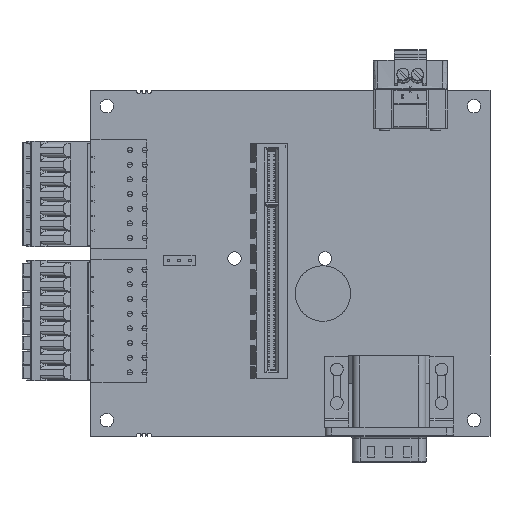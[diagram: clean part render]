
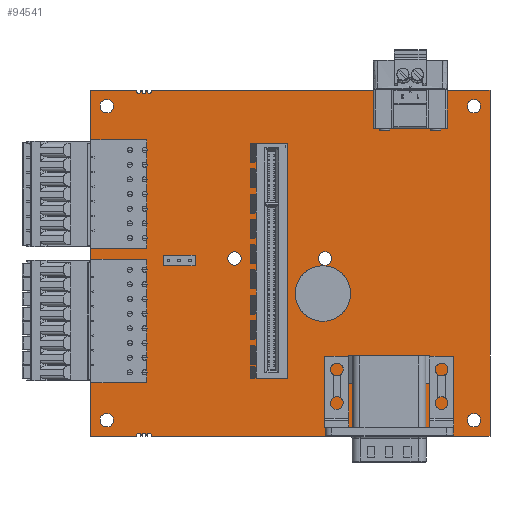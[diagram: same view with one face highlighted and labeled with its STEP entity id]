
A CAD part, front view. The second image highlights one B-rep face of the part: STEP entity #94541.
In plain terms, the highlighted planar face has unit normal (0, -1, 0).
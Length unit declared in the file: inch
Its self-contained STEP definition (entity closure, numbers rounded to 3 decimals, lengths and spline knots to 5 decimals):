
#94337=CARTESIAN_POINT('',(-1.73326,0.,-1.67));
#94338=VERTEX_POINT('',#94337);
#94345=CARTESIAN_POINT('',(-1.76674,0.,-1.67));
#94346=VERTEX_POINT('',#94345);
#94347=CARTESIAN_POINT('',(-1.75,0.,-1.66));
#94348=DIRECTION('',(0.,1.,0.));
#94349=DIRECTION('',(1.,0.,0.));
#94350=AXIS2_PLACEMENT_3D('',#94347,#94348,#94349);
#94351=CIRCLE('',#94350,0.0195);
#94352=EDGE_CURVE('',#94346,#94338,#94351,.T.);
#94368=ORIENTED_EDGE('',*,*,#94352,.T.);
#94369=CARTESIAN_POINT('',(-1.71674,0.,-1.67));
#94370=VERTEX_POINT('',#94369);
#94371=CARTESIAN_POINT('',(6.57942,0.,-1.67));
#94372=DIRECTION('',(1.,0.,0.));
#94373=VECTOR('',#94372,1.);
#94374=LINE('',#94371,#94373);
#94375=EDGE_CURVE('',#94338,#94370,#94374,.T.);
#94376=ORIENTED_EDGE('',*,*,#94375,.T.);
#94377=CARTESIAN_POINT('',(-1.68326,0.,-1.67));
#94378=VERTEX_POINT('',#94377);
#94379=CARTESIAN_POINT('',(-1.7,0.,-1.66));
#94380=DIRECTION('',(0.,1.,0.));
#94381=DIRECTION('',(1.,0.,0.));
#94382=AXIS2_PLACEMENT_3D('',#94379,#94380,#94381);
#94383=CIRCLE('',#94382,0.0195);
#94384=EDGE_CURVE('',#94370,#94378,#94383,.T.);
#94385=ORIENTED_EDGE('',*,*,#94384,.T.);
#94386=CARTESIAN_POINT('',(-1.66674,0.,-1.67));
#94387=VERTEX_POINT('',#94386);
#94388=EDGE_CURVE('',#94378,#94387,#94374,.T.);
#94389=ORIENTED_EDGE('',*,*,#94388,.T.);
#94390=CARTESIAN_POINT('',(-1.63326,0.,-1.67));
#94391=VERTEX_POINT('',#94390);
#94392=CARTESIAN_POINT('',(-1.65,0.,-1.66));
#94393=DIRECTION('',(0.,1.,0.));
#94394=DIRECTION('',(1.,0.,0.));
#94395=AXIS2_PLACEMENT_3D('',#94392,#94393,#94394);
#94396=CIRCLE('',#94395,0.0195);
#94397=EDGE_CURVE('',#94387,#94391,#94396,.T.);
#94398=ORIENTED_EDGE('',*,*,#94397,.T.);
#94399=CARTESIAN_POINT('',(1.55,0.,-1.67));
#94400=VERTEX_POINT('',#94399);
#94401=EDGE_CURVE('',#94391,#94400,#94374,.T.);
#94402=ORIENTED_EDGE('',*,*,#94401,.T.);
#94403=CARTESIAN_POINT('',(1.55,0.,1.58));
#94404=VERTEX_POINT('',#94403);
#94405=CARTESIAN_POINT('',(1.55,0.,-2.58));
#94406=DIRECTION('',(0.,0.,1.));
#94407=VECTOR('',#94406,1.);
#94408=LINE('',#94405,#94407);
#94409=EDGE_CURVE('',#94400,#94404,#94408,.T.);
#94410=ORIENTED_EDGE('',*,*,#94409,.T.);
#94411=CARTESIAN_POINT('',(-1.63326,0.,1.58));
#94412=VERTEX_POINT('',#94411);
#94413=CARTESIAN_POINT('',(-2.2,0.,1.58));
#94414=DIRECTION('',(1.,0.,0.));
#94415=VECTOR('',#94414,1.);
#94416=LINE('',#94413,#94415);
#94417=EDGE_CURVE('',#94412,#94404,#94416,.T.);
#94418=ORIENTED_EDGE('',*,*,#94417,.F.);
#94419=CARTESIAN_POINT('',(-1.66674,0.,1.58));
#94420=VERTEX_POINT('',#94419);
#94421=CARTESIAN_POINT('',(-1.65,0.,1.57));
#94422=DIRECTION('',(0.,1.,0.));
#94423=DIRECTION('',(1.,0.,0.));
#94424=AXIS2_PLACEMENT_3D('',#94421,#94422,#94423);
#94425=CIRCLE('',#94424,0.0195);
#94426=EDGE_CURVE('',#94412,#94420,#94425,.T.);
#94427=ORIENTED_EDGE('',*,*,#94426,.T.);
#94428=CARTESIAN_POINT('',(-1.68326,0.,1.58));
#94429=VERTEX_POINT('',#94428);
#94430=EDGE_CURVE('',#94429,#94420,#94416,.T.);
#94431=ORIENTED_EDGE('',*,*,#94430,.F.);
#94432=CARTESIAN_POINT('',(-1.71674,0.,1.58));
#94433=VERTEX_POINT('',#94432);
#94434=CARTESIAN_POINT('',(-1.7,0.,1.57));
#94435=DIRECTION('',(0.,1.,0.));
#94436=DIRECTION('',(1.,0.,0.));
#94437=AXIS2_PLACEMENT_3D('',#94434,#94435,#94436);
#94438=CIRCLE('',#94437,0.0195);
#94439=EDGE_CURVE('',#94429,#94433,#94438,.T.);
#94440=ORIENTED_EDGE('',*,*,#94439,.T.);
#94441=CARTESIAN_POINT('',(-1.73326,0.,1.58));
#94442=VERTEX_POINT('',#94441);
#94443=EDGE_CURVE('',#94442,#94433,#94416,.T.);
#94444=ORIENTED_EDGE('',*,*,#94443,.F.);
#94445=CARTESIAN_POINT('',(-1.76674,0.,1.58));
#94446=VERTEX_POINT('',#94445);
#94447=CARTESIAN_POINT('',(-1.75,0.,1.57));
#94448=DIRECTION('',(0.,1.,0.));
#94449=DIRECTION('',(1.,0.,0.));
#94450=AXIS2_PLACEMENT_3D('',#94447,#94448,#94449);
#94451=CIRCLE('',#94450,0.0195);
#94452=EDGE_CURVE('',#94442,#94446,#94451,.T.);
#94453=ORIENTED_EDGE('',*,*,#94452,.T.);
#94454=CARTESIAN_POINT('',(-2.2,0.,1.58));
#94455=VERTEX_POINT('',#94454);
#94456=EDGE_CURVE('',#94455,#94446,#94416,.T.);
#94457=ORIENTED_EDGE('',*,*,#94456,.F.);
#94458=CARTESIAN_POINT('',(-2.2,0.,-1.67));
#94459=VERTEX_POINT('',#94458);
#94460=CARTESIAN_POINT('',(-2.2,0.,-2.275));
#94461=DIRECTION('',(0.,0.,1.));
#94462=VECTOR('',#94461,1.);
#94463=LINE('',#94460,#94462);
#94464=EDGE_CURVE('',#94459,#94455,#94463,.T.);
#94465=ORIENTED_EDGE('',*,*,#94464,.F.);
#94466=EDGE_CURVE('',#94459,#94346,#94374,.T.);
#94467=ORIENTED_EDGE('',*,*,#94466,.T.);
#94468=EDGE_LOOP('',(#94368,#94376,#94385,#94389,#94398,#94402,#94410,#94418,#94427,#94431,#94440,#94444,#94453,#94457,#94465,#94467));
#94469=FACE_OUTER_BOUND('',#94468,.T.);
#94470=CARTESIAN_POINT('',(-2.113,0.,1.43));
#94471=VERTEX_POINT('',#94470);
#94472=CARTESIAN_POINT('',(-2.05,0.,1.43));
#94473=DIRECTION('',(0.,1.,0.));
#94474=DIRECTION('',(1.,0.,0.));
#94475=AXIS2_PLACEMENT_3D('',#94472,#94473,#94474);
#94476=CIRCLE('',#94475,0.063);
#94477=EDGE_CURVE('',#94471,#94471,#94476,.T.);
#94478=ORIENTED_EDGE('',*,*,#94477,.T.);
#94479=EDGE_LOOP('',(#94478));
#94480=FACE_BOUND('',#94479,.T.);
#94481=CARTESIAN_POINT('',(1.337,0.,1.43));
#94482=VERTEX_POINT('',#94481);
#94483=CARTESIAN_POINT('',(1.4,0.,1.43));
#94484=DIRECTION('',(0.,1.,0.));
#94485=DIRECTION('',(1.,0.,0.));
#94486=AXIS2_PLACEMENT_3D('',#94483,#94484,#94485);
#94487=CIRCLE('',#94486,0.063);
#94488=EDGE_CURVE('',#94482,#94482,#94487,.T.);
#94489=ORIENTED_EDGE('',*,*,#94488,.T.);
#94490=EDGE_LOOP('',(#94489));
#94491=FACE_BOUND('',#94490,.T.);
#94492=CARTESIAN_POINT('',(1.337,0.,-1.52));
#94493=VERTEX_POINT('',#94492);
#94494=CARTESIAN_POINT('',(1.4,0.,-1.52));
#94495=DIRECTION('',(0.,1.,0.));
#94496=DIRECTION('',(1.,0.,0.));
#94497=AXIS2_PLACEMENT_3D('',#94494,#94495,#94496);
#94498=CIRCLE('',#94497,0.063);
#94499=EDGE_CURVE('',#94493,#94493,#94498,.T.);
#94500=ORIENTED_EDGE('',*,*,#94499,.T.);
#94501=EDGE_LOOP('',(#94500));
#94502=FACE_BOUND('',#94501,.T.);
#94503=CARTESIAN_POINT('',(-2.113,0.,-1.52));
#94504=VERTEX_POINT('',#94503);
#94505=CARTESIAN_POINT('',(-2.05,0.,-1.52));
#94506=DIRECTION('',(0.,1.,0.));
#94507=DIRECTION('',(1.,0.,0.));
#94508=AXIS2_PLACEMENT_3D('',#94505,#94506,#94507);
#94509=CIRCLE('',#94508,0.063);
#94510=EDGE_CURVE('',#94504,#94504,#94509,.T.);
#94511=ORIENTED_EDGE('',*,*,#94510,.T.);
#94512=EDGE_LOOP('',(#94511));
#94513=FACE_BOUND('',#94512,.T.);
#94514=CARTESIAN_POINT('',(-0.913,0.,0.));
#94515=VERTEX_POINT('',#94514);
#94516=CARTESIAN_POINT('',(-0.85,0.,0.));
#94517=DIRECTION('',(0.,1.,0.));
#94518=DIRECTION('',(1.,0.,0.));
#94519=AXIS2_PLACEMENT_3D('',#94516,#94517,#94518);
#94520=CIRCLE('',#94519,0.063);
#94521=EDGE_CURVE('',#94515,#94515,#94520,.T.);
#94522=ORIENTED_EDGE('',*,*,#94521,.T.);
#94523=EDGE_LOOP('',(#94522));
#94524=FACE_BOUND('',#94523,.T.);
#94525=CARTESIAN_POINT('',(-0.063,0.,0.));
#94526=VERTEX_POINT('',#94525);
#94527=CARTESIAN_POINT('',(0.,0.,0.));
#94528=DIRECTION('',(0.,1.,0.));
#94529=DIRECTION('',(1.,0.,0.));
#94530=AXIS2_PLACEMENT_3D('',#94527,#94528,#94529);
#94531=CIRCLE('',#94530,0.063);
#94532=EDGE_CURVE('',#94526,#94526,#94531,.T.);
#94533=ORIENTED_EDGE('',*,*,#94532,.T.);
#94534=EDGE_LOOP('',(#94533));
#94535=FACE_BOUND('',#94534,.T.);
#94536=CARTESIAN_POINT('',(-1.874,0.,1.519));
#94537=DIRECTION('',(0.,1.,0.));
#94538=DIRECTION('',(1.,0.,0.));
#94539=AXIS2_PLACEMENT_3D('',#94536,#94537,#94538);
#94540=PLANE('',#94539);
#94541=ADVANCED_FACE('',(#94469,#94480,#94491,#94502,#94513,#94524,#94535),#94540,.F.);
